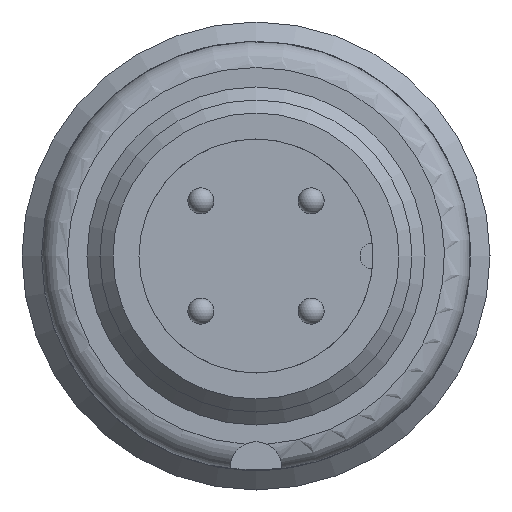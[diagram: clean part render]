
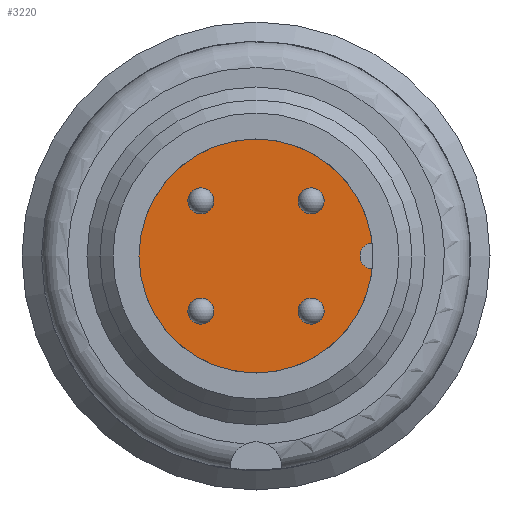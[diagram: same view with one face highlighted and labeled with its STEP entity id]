
A CAD part, left-side view. The second image highlights one B-rep face of the part: STEP entity #3220.
In plain terms, the highlighted planar face has unit normal (-1, 0, 0).
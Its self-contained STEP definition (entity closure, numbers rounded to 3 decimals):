
#2866=CARTESIAN_POINT('',(-43.018,-4.472,0.499));
#2867=VERTEX_POINT('',#2866);
#2876=CARTESIAN_POINT('',(-43.018,-4.472,-0.499));
#2877=VERTEX_POINT('',#2876);
#2878=CARTESIAN_POINT('',(-43.018,-4.5,0.0));
#2879=DIRECTION('',(1.0,0.0,0.0));
#2880=DIRECTION('',(0.0,0.0,-1.0));
#2881=AXIS2_PLACEMENT_3D('',#2878,#2879,#2880);
#2882=CIRCLE('',#2881,0.5);
#2883=EDGE_CURVE('',#2877,#2867,#2882,.T.);
#2927=CARTESIAN_POINT('',(-43.018,0.,0.0));
#2928=DIRECTION('',(1.0,0.0,0.0));
#2929=DIRECTION('',(0.0,1.0,0.0));
#2930=AXIS2_PLACEMENT_3D('',#2927,#2928,#2929);
#2931=CIRCLE('',#2930,4.5);
#2932=EDGE_CURVE('',#2877,#2867,#2931,.T.);
#2979=CARTESIAN_POINT('',(-43.018,-2.121,-1.621));
#2980=VERTEX_POINT('',#2979);
#2981=CARTESIAN_POINT('',(-43.018,-2.121,-2.121));
#2982=DIRECTION('',(1.0,0.0,0.0));
#2983=DIRECTION('',(0.0,0.0,-1.0));
#2984=AXIS2_PLACEMENT_3D('',#2981,#2982,#2983);
#2985=CIRCLE('',#2984,0.5);
#2986=EDGE_CURVE('',#2980,#2980,#2985,.T.);
#3026=CARTESIAN_POINT('',(-43.018,-2.121,2.621));
#3027=VERTEX_POINT('',#3026);
#3028=CARTESIAN_POINT('',(-43.018,-2.121,2.121));
#3029=DIRECTION('',(1.0,0.0,0.0));
#3030=DIRECTION('',(0.0,0.0,-1.0));
#3031=AXIS2_PLACEMENT_3D('',#3028,#3029,#3030);
#3032=CIRCLE('',#3031,0.5);
#3033=EDGE_CURVE('',#3027,#3027,#3032,.T.);
#3073=CARTESIAN_POINT('',(-43.018,2.121,-1.621));
#3074=VERTEX_POINT('',#3073);
#3075=CARTESIAN_POINT('',(-43.018,2.121,-2.121));
#3076=DIRECTION('',(1.0,0.0,0.0));
#3077=DIRECTION('',(0.0,0.0,-1.0));
#3078=AXIS2_PLACEMENT_3D('',#3075,#3076,#3077);
#3079=CIRCLE('',#3078,0.5);
#3080=EDGE_CURVE('',#3074,#3074,#3079,.T.);
#3120=CARTESIAN_POINT('',(-43.018,2.121,2.621));
#3121=VERTEX_POINT('',#3120);
#3122=CARTESIAN_POINT('',(-43.018,2.121,2.121));
#3123=DIRECTION('',(1.0,0.0,0.0));
#3124=DIRECTION('',(0.0,0.0,-1.0));
#3125=AXIS2_PLACEMENT_3D('',#3122,#3123,#3124);
#3126=CIRCLE('',#3125,0.5);
#3127=EDGE_CURVE('',#3121,#3121,#3126,.T.);
#3199=CARTESIAN_POINT('',(-43.018,2.25,0.0));
#3200=DIRECTION('',(-1.0,0.0,0.0));
#3201=DIRECTION('',(0.0,0.0,1.0));
#3202=AXIS2_PLACEMENT_3D('',#3199,#3200,#3201);
#3203=PLANE('',#3202);
#3204=ORIENTED_EDGE('',*,*,#2883,.T.);
#3205=ORIENTED_EDGE('',*,*,#2932,.F.);
#3206=EDGE_LOOP('',(#3204,#3205));
#3207=FACE_OUTER_BOUND('',#3206,.T.);
#3208=ORIENTED_EDGE('',*,*,#3080,.T.);
#3209=EDGE_LOOP('',(#3208));
#3210=FACE_BOUND('',#3209,.T.);
#3211=ORIENTED_EDGE('',*,*,#3033,.T.);
#3212=EDGE_LOOP('',(#3211));
#3213=FACE_BOUND('',#3212,.T.);
#3214=ORIENTED_EDGE('',*,*,#3127,.T.);
#3215=EDGE_LOOP('',(#3214));
#3216=FACE_BOUND('',#3215,.T.);
#3217=ORIENTED_EDGE('',*,*,#2986,.T.);
#3218=EDGE_LOOP('',(#3217));
#3219=FACE_BOUND('',#3218,.T.);
#3220=ADVANCED_FACE('',(#3207,#3210,#3213,#3216,#3219),#3203,.T.);
